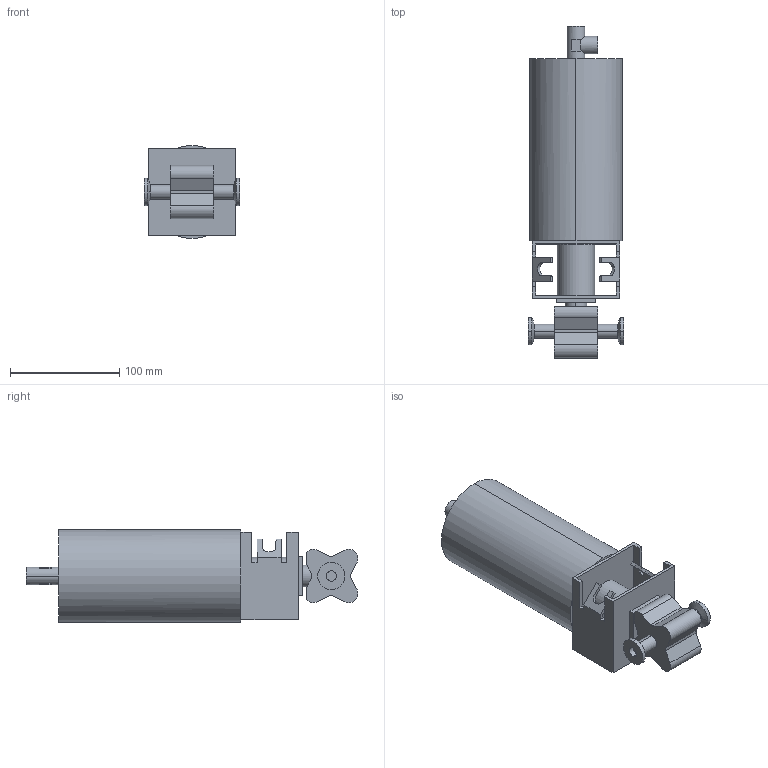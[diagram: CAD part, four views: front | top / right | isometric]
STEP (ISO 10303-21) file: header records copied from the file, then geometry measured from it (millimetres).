
FILE_DESCRIPTION(('Creo Elements/Direct Modeling STEP Export'),'2;1');
FILE_NAME('BLV1-0.5T-NC-12CL.stp','2019-05-10T 7:41:37',(''),(''),'Creo Elements/Direct Modeling STEP processor for AP214 (Solid Model)','Creo Elements/Direct Modeling 19.0F 14-Feb-2017 (C) Parametric Technology GmbH','');
FILE_SCHEMA(('AUTOMOTIVE_DESIGN { 1 0 10303 214 1 1 1 1 }'));
Length unit declared in the file: millimetre
Products named in the file (2): BLV1-0.5T-NC-12CL
Assembly tree (1 placements, depth 2):
  BLV1-0.5T-NC-12CL
    BLV1-0.5T-NC-12CL
Bounding box: 88 x 304.46 x 85 mm (x, y, z)
Volume: 1148187.5 mm3; surface area: 106981.1 mm2
Topology: 1 solids, 1 shells, 119 faces, 317 edges, 206 vertices
Faces by surface type: plane 82, cylinder 33, cone 4
Entity records: 3380 total; most frequent: ORIENTED_EDGE 634, CARTESIAN_POINT 586, DIRECTION 507, EDGE_CURVE 317, VERTEX_POINT 206, VECTOR 201, LINE 201, AXIS2_PLACEMENT_3D 153
